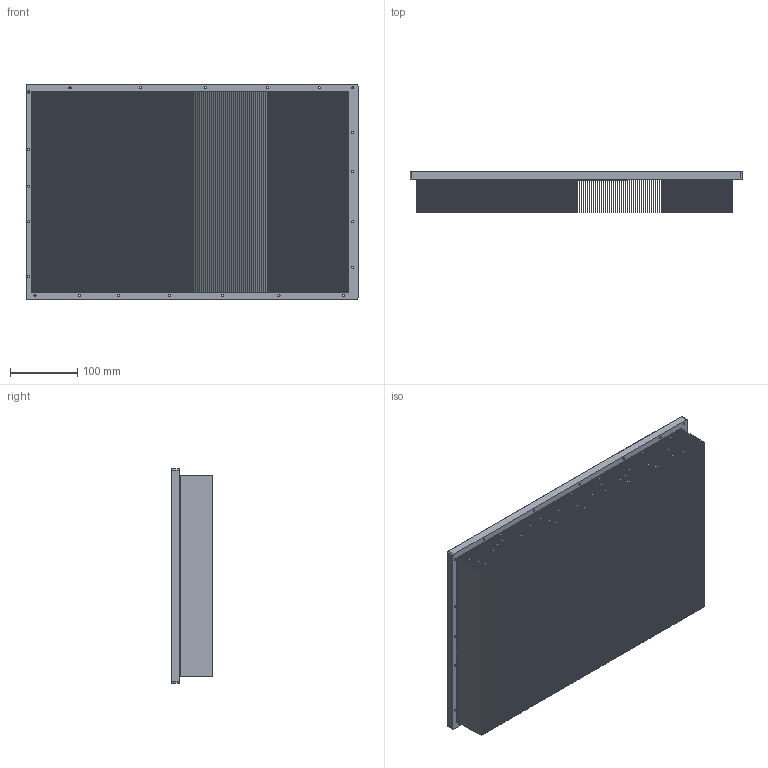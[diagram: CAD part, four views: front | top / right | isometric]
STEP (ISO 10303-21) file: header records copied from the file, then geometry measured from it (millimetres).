
FILE_DESCRIPTION(('STEP AP214'),'1');
FILE_NAME('RX616-024-00.stp','2026-07-13T09:17:14',(' '),(' '),'Spatial InterOp 3D',' ',' ');
FILE_SCHEMA(('AUTOMOTIVE_DESIGN { 1 0 10303 214 1 1 1 1 }'));
Length unit declared in the file: metre
Products named in the file (4): RX616-024-00; 组件135; TIM; HP
Assembly tree (3 placements, depth 2):
  RX616-024-00
    组件135
    TIM
    HP
Bounding box: 495 x 62 x 320 mm (x, y, z)
Volume: 4279031.9 mm3; surface area: 5405377.4 mm2
Topology: 34 solids, 34 shells, 1606 faces, 3994 edges, 2602 vertices
Faces by surface type: plane 935, cylinder 478, torus 152, extrusion 33, cone 8
Entity records: 54045 total; most frequent: CARTESIAN_POINT 14541, DIRECTION 8279, ORIENTED_EDGE 7932, EDGE_CURVE 3966, AXIS2_PLACEMENT_3D 2833, VECTOR 2613, VERTEX_POINT 2602, LINE 2580
